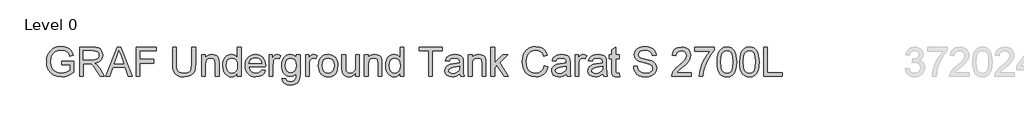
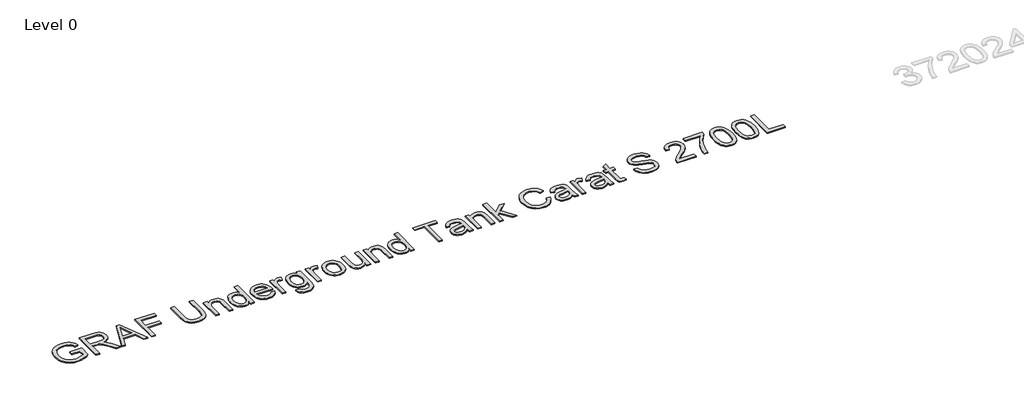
# One storey, part 18 of 20: 1 proxy.
"""IFC4 building model written with IfcOpenShell, lengths in millimetres."""

from ifc_helpers import new_model, si_unit, origin, origin_with_axes, place, context, project, spatial, polyline, outline, extrude, element, save

model = new_model("IFC4")

# Units and contexts
model_context = context("Model", 3, world=origin())
ifc_project = project(units=[si_unit("LENGTHUNIT", "METRE", prefix="MILLI")], contexts=[model_context])

# Site, building, storey
site = spatial("IfcSite", under=ifc_project)
building = spatial("IfcBuilding", under=site)
storey = spatial("IfcBuildingStorey", under=building, Name="Level 0", Elevation=0.0)

# Proxy
placement = place(None, origin())
element("IfcBuildingElementProxy", 1, Name="300mm Arial", ObjectType="300mm Arial", at=placement, inside=storey, context=model_context, shape_type="SweptSolid", body=[
    extrude(outline(polyline([(-14980.9940387, 9416.7454403), (-14980.9940387, 9454.4165566), (-14858.5629107, 9454.4165566), (-14858.5629107, 9341.7710897), (-14888.3153671, 9321.0777274), (-14919.0059225, 9306.2336889), (-14950.5610007, 9297.2941564), (-14982.9070251, 9294.3143123), (-15025.1674693, 9299.050793), (-15063.3628175, 9313.260235), (-15095.0926395, 9336.4459978), (-15117.9565055, 9368.1114405), (-15131.7796715, 9406.0952565), (-15136.3873935, 9448.2361391), (-15131.7980656, 9490.6805243), (-15118.0300819, 9530.1634594), (-15095.6536596, 9563.282036), (-15065.2390156, 9586.6333457), (-15028.1932987, 9600.4841028), (-14985.9236575, 9605.1010218), (-14954.8928112, 9602.4246803), (-14926.9889618, 9594.3956557), (-14903.4904994, 9581.5933623), (-14885.6758138, 9564.5972141), (-14872.4964413, 9542.5886738), (-14862.9039183, 9514.7492038), (-14897.6319786, 9504.9635427), (-14905.3850917, 9524.8199734), (-14914.8120678, 9539.8019677), (-14927.2832674, 9551.0959449), (-14944.169051, 9559.8883246), (-14964.3013932, 9565.5445103), (-14986.5122687, 9567.4299055), (-15012.5123287, 9565.3973575), (-15034.7415982, 9559.2997134), (-15053.1173039, 9549.9003284), (-15067.5566722, 9537.9625577), (-15086.9440533, 9508.9366683), (-15095.7732212, 9480.49939), (-15098.7162772, 9449.7812434), (-15095.175413, 9413.7563991), (-15084.5528204, 9384.1143073), (-15067.1703961, 9361.0665003), (-15043.3500369, 9344.8245102), (-15015.4737787, 9335.195199), (-14985.9236575, 9331.9854286), (-14959.831627, 9334.4042527), (-14934.3833899, 9341.6607251), (-14912.2828791, 9351.6579183), (-14896.234027, 9362.298905), (-14896.234027, 9416.7454403), (-14980.9940387, 9416.7454403)])), origin_with_axes(), (0.0, 0.0, 1.0), 10.0),
    extrude(outline(polyline([(-14797.3473467, 9299.0232018), (-14797.3473467, 9600.3921323), (-14667.4850024, 9600.3921323), (-14632.5821982, 9598.3595842), (-14607.1891434, 9592.2619402), (-14588.6294968, 9581.0047511), (-14574.2269167, 9563.4935682), (-14564.9838815, 9541.7793334), (-14561.9028698, 9517.912989), (-14567.0072325, 9488.2249119), (-14582.3203206, 9463.6136065), (-14593.9200997, 9453.5842236), (-14608.3019865, 9445.5689946), (-14645.4120827, 9435.5809984), (-14624.0013506, 9419.467767), (-14593.467145, 9380.6930048), (-14543.2144645, 9299.0232018), (-14586.9924219, 9299.0232018), (-14626.2086426, 9361.4895646), (-14654.5355562, 9402.8395009), (-14674.4379722, 9422.3740348), (-14692.3538253, 9429.5477337), (-14714.2060158, 9430.8721089), (-14759.6762304, 9430.8721089), (-14759.6762304, 9299.0232018), (-14797.3473467, 9299.0232018)]), holes=[polyline([(-14759.6762304, 9468.5432252), (-14675.3576771, 9468.5432252), (-14651.1418448, 9469.8767974), (-14632.3522719, 9473.8775141), (-14618.2072092, 9480.8120897), (-14607.9249074, 9490.9472387), (-14601.6617165, 9503.2069062), (-14599.5739861, 9516.5150374), (-14603.5563087, 9534.890743), (-14615.5032765, 9549.6979933), (-14636.058683, 9559.4652603), (-14665.8663217, 9562.721016), (-14759.6762304, 9562.721016), (-14759.6762304, 9468.5432252)])]), origin_with_axes(), (0.0, 0.0, 1.0), 10.0),
    extrude(outline(polyline([(-14531.0743586, 9299.0232018), (-14410.7769462, 9600.3921323), (-14378.6976362, 9600.3921323), (-14258.4002238, 9299.0232018), (-14298.2050557, 9299.0232018), (-14332.7123868, 9393.2009926), (-14456.835772, 9393.2009926), (-14491.2695268, 9299.0232018), (-14531.0743586, 9299.0232018)]), holes=[polyline([(-14443.003409, 9430.8721089), (-14346.4711735, 9430.8721089), (-14373.6208647, 9504.9635427), (-14394.7372912, 9562.721016), (-14413.499273, 9511.4382658), (-14443.003409, 9430.8721089)])]), origin_with_axes(), (0.0, 0.0, 1.0), 10.0),
    extrude(outline(polyline([(-14218.1539335, 9299.0232018), (-14218.1539335, 9600.3921323), (-14015.6716834, 9600.3921323), (-14015.6716834, 9562.721016), (-14180.4828172, 9562.721016), (-14180.4828172, 9473.2521147), (-14039.2161311, 9473.2521147), (-14039.2161311, 9435.5809984), (-14180.4828172, 9435.5809984), (-14180.4828172, 9299.0232018), (-14218.1539335, 9299.0232018)])), origin_with_axes(), (0.0, 0.0, 1.0), 10.0),
    extrude(outline(polyline([(-13648.3782994, 9600.3921323), (-13610.7071831, 9600.3921323), (-13610.7071831, 9426.5311014), (-13613.263963, 9385.8157615), (-13620.9343026, 9354.4630185), (-13635.2633063, 9330.2747773), (-13657.7960785, 9311.0529431), (-13688.5878015, 9298.49897), (-13727.6936576, 9294.3143123), (-13765.944188, 9297.956344), (-13796.5243789, 9308.8824393), (-13819.4434272, 9326.715519), (-13834.71053, 9351.0785041), (-13843.2913775, 9383.7556224), (-13846.15166, 9426.5311014), (-13846.15166, 9600.3921323), (-13808.4805437, 9600.3921323), (-13808.4805437, 9427.8554765), (-13806.6227396, 9394.0011359), (-13801.0493274, 9370.4290971), (-13790.9509666, 9354.1043335), (-13775.5183169, 9341.9918189), (-13755.3951718, 9334.4870262), (-13731.2253247, 9331.9854286), (-13692.9104149, 9336.9334414), (-13678.5676156, 9343.1184575), (-13667.4345868, 9351.7774799), (-13659.097461, 9363.954374), (-13653.1423712, 9380.6930048), (-13648.3782994, 9427.8554765), (-13648.3782994, 9600.3921323)])), origin_with_axes(), (0.0, 0.0, 1.0), 10.0),
    extrude(outline(polyline([(-13549.4916191, 9299.0232018), (-13549.4916191, 9520.3410101), (-13511.8205028, 9520.3410101), (-13511.8205028, 9489.4389225), (-13498.7331008, 9505.018725), (-13483.0153426, 9516.1471554), (-13464.6672281, 9522.8242136), (-13443.6887573, 9525.0498997), (-13425.1199136, 9523.2564749), (-13408.1145684, 9517.8762008), (-13393.9327174, 9509.5804618), (-13383.8343567, 9499.0406426), (-13372.5403794, 9471.3391284), (-13370.5538166, 9434.9188108), (-13370.5538166, 9299.0232018), (-13408.224933, 9299.0232018), (-13408.224933, 9429.8420393), (-13412.5659405, 9463.1721481), (-13418.5716141, 9473.0957649), (-13427.9066197, 9480.7936956), (-13439.8719816, 9485.7325114), (-13453.768724, 9487.3787834), (-13475.8324466, 9483.6815693), (-13494.6404136, 9472.5899271), (-13502.1567026, 9463.5354315), (-13507.5254805, 9451.1608009), (-13511.8205028, 9416.4511347), (-13511.8205028, 9299.0232018), (-13549.4916191, 9299.0232018)])), origin_with_axes(), (0.0, 0.0, 1.0), 10.0),
    extrude(outline(polyline([(-13182.1982351, 9299.0232018), (-13182.1982351, 9334.5606026), (-13193.4692197, 9316.9528506), (-13207.1222403, 9304.3758849), (-13223.1572968, 9296.8297054), (-13241.5743891, 9294.3143123), (-13265.9281772, 9297.956344), (-13288.2218261, 9308.8824393), (-13307.0941725, 9326.3292429), (-13321.1840529, 9349.5333998), (-13329.9580385, 9377.5568107), (-13332.8827003, 9409.4613768), (-13330.1879647, 9440.9704697), (-13322.1037579, 9469.426142), (-13308.6392769, 9493.209713), (-13289.8037187, 9510.7025018), (-13267.0226262, 9521.4630502), (-13241.7215419, 9525.0498997), (-13223.290654, 9522.4839227), (-13206.9934816, 9514.785992), (-13193.1795127, 9502.986177), (-13182.1982351, 9488.1145473), (-13182.1982351, 9600.3921323), (-13144.5271188, 9600.3921323), (-13144.5271188, 9299.0232018), (-13182.1982351, 9299.0232018)]), holes=[polyline([(-13295.211584, 9409.6085296), (-13290.962547, 9375.5334598), (-13278.2154359, 9351.2992333), (-13259.6925774, 9336.8138798), (-13238.1162984, 9331.9854286), (-13216.5492164, 9336.5931506), (-13198.4954075, 9350.4163165), (-13186.2725282, 9373.7124439), (-13182.1982351, 9406.73905), (-13186.3461046, 9442.8466678), (-13198.7897131, 9467.8810376), (-13217.3033745, 9482.5043469), (-13239.6614028, 9487.3787834), (-13261.458411, 9482.697485), (-13279.3190818, 9468.6535898), (-13291.2384585, 9444.529728), (-13295.211584, 9409.6085296)])]), origin_with_axes(), (0.0, 0.0, 1.0), 10.0),
    extrude(outline(polyline([(-12933.068548, 9364.9476554), (-12896.1331957, 9360.2387658), (-12909.4413268, 9332.4084929), (-12930.677315, 9311.6047661), (-12959.3629136, 9298.6369257), (-12995.019876, 9294.3143123), (-13018.3941782, 9296.1790141), (-13039.2208977, 9301.7731197), (-13057.5000343, 9311.0966291), (-13073.2315881, 9324.1495421), (-13085.8821303, 9340.5685754), (-13094.9182318, 9359.9904455), (-13100.3398927, 9382.4151523), (-13102.147113, 9407.842696), (-13100.3214986, 9434.1324631), (-13094.8446554, 9457.3044302), (-13085.7165834, 9477.3585975), (-13072.9372826, 9494.2949649), (-13057.2471155, 9507.7502488), (-13039.3864446, 9517.361166), (-13019.35527, 9523.1277162), (-12997.1535915, 9525.0498997), (-12975.6669838, 9523.1323148), (-12956.2359166, 9517.3795601), (-12938.8603901, 9507.7916356), (-12923.5404043, 9494.3685413), (-12911.0347157, 9477.4689621), (-12902.102081, 9457.451583), (-12896.7425002, 9434.3164041), (-12894.9559733, 9408.0634252), (-12895.1767025, 9397.9098821), (-13064.4759967, 9397.9098821), (-13057.9552883, 9369.7117272), (-13042.8077471, 9348.9815768), (-13020.9463596, 9336.2344656), (-12994.284112, 9331.9854286), (-12974.2345432, 9333.9535973), (-12957.3487597, 9339.8581033), (-12943.6267612, 9350.0668287), (-12933.068548, 9364.9476554)]), holes=[polyline([(-13064.4759967, 9435.5809984), (-12932.6270896, 9435.5809984), (-12937.7222552, 9455.4834144), (-12947.7102514, 9469.7204476), (-12969.6728065, 9482.9641994), (-12997.3007443, 9487.3787834), (-13022.6937991, 9483.8563132), (-13043.6906639, 9473.2889029), (-13058.2863821, 9456.8169866), (-13064.4759967, 9435.5809984)])]), origin_with_axes(), (0.0, 0.0, 1.0), 10.0),
    extrude(outline(polyline([(-12857.284857, 9299.0232018), (-12857.284857, 9520.3410101), (-12824.3226302, 9520.3410101), (-12824.3226302, 9487.5995125), (-12812.1457362, 9506.5822235), (-12800.9253353, 9517.7658362), (-12789.6681463, 9523.2288838), (-12777.3808876, 9525.0498997), (-12758.6189059, 9522.1436319), (-12739.5626185, 9513.4248286), (-12752.1441828, 9479.6532615), (-12765.3879346, 9485.4474029), (-12778.6316864, 9487.3787834), (-12789.8796784, 9485.5209793), (-12799.9320539, 9479.947567), (-12808.053049, 9471.081611), (-12813.5068996, 9459.3461753), (-12818.0870304, 9438.3033252), (-12819.6137407, 9415.3474887), (-12819.6137407, 9299.0232018), (-12857.284857, 9299.0232018)])), origin_with_axes(), (0.0, 0.0, 1.0), 10.0),
    extrude(outline(polyline([(-12725.4359499, 9280.1876437), (-12687.7648336, 9275.4787541), (-12683.6077671, 9263.7065303), (-12675.5511514, 9255.6131264), (-12659.7138315, 9249.3223443), (-12638.983681, 9247.2254169), (-12616.8739731, 9249.5982558), (-12600.4296479, 9256.7167724), (-12589.0253061, 9268.1211142), (-12582.0355482, 9283.3514288), (-12579.4603742, 9327.2765391), (-12591.9959532, 9314.915704), (-12605.9846661, 9306.0865361), (-12621.4265128, 9300.7890354), (-12638.3214935, 9299.0232018), (-12658.9757682, 9301.0787425), (-12677.1606351, 9307.2453644), (-12692.8760941, 9317.5230677), (-12706.1221452, 9331.9118522), (-12716.6320739, 9349.1747148), (-12724.1391659, 9368.0746523), (-12728.6434211, 9388.6116647), (-12730.1448394, 9410.785752), (-12727.4501038, 9441.2003959), (-12719.365897, 9469.1686246), (-12706.1773275, 9492.8694221), (-12688.1695038, 9510.4817726), (-12665.9586283, 9521.4078679), (-12640.1609034, 9525.0498997), (-12622.5439544, 9522.9897605), (-12606.5548832, 9516.809343), (-12592.1936898, 9506.5086471), (-12579.4603742, 9492.0876729), (-12579.4603742, 9520.3410101), (-12541.7892579, 9520.3410101), (-12541.7892579, 9329.2631018), (-12544.3644319, 9285.1448536), (-12552.0899538, 9256.091373), (-12565.398085, 9236.8235535), (-12584.7210868, 9222.0622884), (-12609.6358949, 9212.6812976), (-12639.719445, 9209.5543006), (-12674.7694021, 9213.9596875), (-12702.3697488, 9227.1758482), (-12712.7647144, 9237.0971657), (-12720.0740698, 9249.2395708), (-12724.297815, 9263.6030635), (-12725.4359499, 9280.1876437)]), holes=[polyline([(-12692.4737231, 9413.3609259), (-12688.4546123, 9378.8076095), (-12676.39728, 9355.0516297), (-12658.2698946, 9341.283646), (-12636.0406251, 9336.6943181), (-12613.9769024, 9341.2560549), (-12595.7575466, 9354.9412651), (-12583.5346673, 9378.3937423), (-12579.4603742, 9412.2572799), (-12583.654229, 9444.9160041), (-12596.2357932, 9468.4328606), (-12614.7218635, 9482.6423027), (-12636.6292363, 9487.3787834), (-12658.1411359, 9482.7158791), (-12676.1765508, 9468.7271662), (-12688.39943, 9445.5597976), (-12692.4737231, 9413.3609259)])]), origin_with_axes(), (0.0, 0.0, 1.0), 10.0),
    extrude(outline(polyline([(-12485.2825835, 9299.0232018), (-12485.2825835, 9520.3410101), (-12452.3203567, 9520.3410101), (-12452.3203567, 9487.5995125), (-12440.1434626, 9506.5822235), (-12428.9230618, 9517.7658362), (-12417.6658727, 9523.2288838), (-12405.3786141, 9525.0498997), (-12386.6166324, 9522.1436319), (-12367.560345, 9513.4248286), (-12380.1419092, 9479.6532615), (-12393.3856611, 9485.4474029), (-12406.6294129, 9487.3787834), (-12417.8774049, 9485.5209793), (-12427.9297804, 9479.947567), (-12436.0507755, 9471.081611), (-12441.504626, 9459.3461753), (-12446.0847569, 9438.3033252), (-12447.6114672, 9415.3474887), (-12447.6114672, 9299.0232018), (-12485.2825835, 9299.0232018)])), origin_with_axes(), (0.0, 0.0, 1.0), 10.0),
    extrude(outline(polyline([(-12353.4336764, 9409.682106), (-12351.3965298, 9438.3447119), (-12345.2850902, 9463.0433894), (-12335.0993575, 9483.7781383), (-12320.8393316, 9500.5489588), (-12306.4827368, 9511.2681204), (-12290.6362198, 9518.9246644), (-12273.2997808, 9523.5185909), (-12254.4734197, 9525.0498997), (-12233.6903862, 9523.1851978), (-12214.8985141, 9517.5910922), (-12198.0978032, 9508.2675829), (-12183.2882536, 9495.2146698), (-12171.2010308, 9478.8738115), (-12162.5673002, 9459.6864662), (-12157.3870619, 9437.6526339), (-12155.6603158, 9412.7723147), (-12158.7137363, 9374.7149223), (-12167.873998, 9345.7442152), (-12182.8743864, 9324.0483745), (-12203.448187, 9307.8155815), (-12227.8847485, 9297.6896296), (-12254.4734197, 9294.3143123), (-12275.5599558, 9296.1721164), (-12294.5265719, 9301.7455286), (-12311.373268, 9311.034549), (-12326.1000441, 9324.0391775), (-12338.0585082, 9340.538685), (-12346.6002683, 9360.3123422), (-12351.7253244, 9383.3601492), (-12353.4336764, 9409.682106)]), holes=[polyline([(-12315.7625601, 9409.7556824), (-12311.4031584, 9375.6622185), (-12298.3249535, 9351.3728097), (-12278.6432668, 9336.8322739), (-12254.4734197, 9331.9854286), (-12230.4139372, 9336.859865), (-12210.7690387, 9351.4831743), (-12197.6908337, 9376.0944798), (-12193.3314321, 9410.9329048), (-12197.7184249, 9444.0330873), (-12210.8794033, 9467.9914022), (-12230.5518929, 9482.5319381), (-12254.4734197, 9487.3787834), (-12278.6432668, 9482.5503322), (-12298.3249535, 9468.0649786), (-12311.4031584, 9443.8307522), (-12315.7625601, 9409.7556824)])]), origin_with_axes(), (0.0, 0.0, 1.0), 10.0),
    extrude(outline(polyline([(-11972.0136238, 9299.0232018), (-11972.0136238, 9337.0622001), (-11985.6436517, 9318.3599992), (-12001.5177598, 9305.0012842), (-12019.6359481, 9296.9860553), (-12039.9982165, 9294.3143123), (-12058.346331, 9296.1905105), (-12075.4252526, 9301.819105), (-12089.7542563, 9310.2803909), (-12099.8526171, 9320.6546631), (-12111.073018, 9348.3929656), (-12113.2803099, 9383.4153315), (-12113.2803099, 9520.3410101), (-12075.6091936, 9520.3410101), (-12075.6091936, 9401.1472437), (-12073.3283253, 9362.7403634), (-12067.8376865, 9349.9288729), (-12058.4291045, 9340.1891971), (-12045.7279786, 9334.0363707), (-12030.3597082, 9331.9854286), (-12014.1085211, 9334.082356), (-11998.9057976, 9340.3731381), (-11986.3702186, 9350.2783608), (-11978.1204649, 9363.21861), (-11973.5403341, 9380.9413251), (-11972.0136238, 9405.1939456), (-11972.0136238, 9520.3410101), (-11934.3425075, 9520.3410101), (-11934.3425075, 9299.0232018), (-11972.0136238, 9299.0232018)])), origin_with_axes(), (0.0, 0.0, 1.0), 10.0),
    extrude(outline(polyline([(-11882.5447226, 9299.0232018), (-11882.5447226, 9520.3410101), (-11844.8736063, 9520.3410101), (-11844.8736063, 9489.4389225), (-11831.7862043, 9505.018725), (-11816.068446, 9516.1471554), (-11797.7203315, 9522.8242136), (-11776.7418607, 9525.0498997), (-11758.173017, 9523.2564749), (-11741.1676718, 9517.8762008), (-11726.9858209, 9509.5804618), (-11716.8874601, 9499.0406426), (-11705.5934829, 9471.3391284), (-11703.6069201, 9434.9188108), (-11703.6069201, 9299.0232018), (-11741.2780364, 9299.0232018), (-11741.2780364, 9429.8420393), (-11745.619044, 9463.1721481), (-11751.6247175, 9473.0957649), (-11760.9597232, 9480.7936956), (-11772.925085, 9485.7325114), (-11786.8218274, 9487.3787834), (-11808.8855501, 9483.6815693), (-11827.6935171, 9472.5899271), (-11835.2098061, 9463.5354315), (-11840.578584, 9451.1608009), (-11844.8736063, 9416.4511347), (-11844.8736063, 9299.0232018), (-11882.5447226, 9299.0232018)])), origin_with_axes(), (0.0, 0.0, 1.0), 10.0),
    extrude(outline(polyline([(-11515.2513386, 9299.0232018), (-11515.2513386, 9334.5606026), (-11526.5223232, 9316.9528506), (-11540.1753437, 9304.3758849), (-11556.2104002, 9296.8297054), (-11574.6274926, 9294.3143123), (-11598.9812807, 9297.956344), (-11621.2749296, 9308.8824393), (-11640.1472759, 9326.3292429), (-11654.2371564, 9349.5333998), (-11663.0111419, 9377.5568107), (-11665.9358038, 9409.4613768), (-11663.2410682, 9440.9704697), (-11655.1568613, 9469.426142), (-11641.6923803, 9493.209713), (-11622.8568222, 9510.7025018), (-11600.0757296, 9521.4630502), (-11574.7746454, 9525.0498997), (-11556.3437574, 9522.4839227), (-11540.046585, 9514.785992), (-11526.2326161, 9502.986177), (-11515.2513386, 9488.1145473), (-11515.2513386, 9600.3921323), (-11477.5802223, 9600.3921323), (-11477.5802223, 9299.0232018), (-11515.2513386, 9299.0232018)]), holes=[polyline([(-11628.2646875, 9409.6085296), (-11624.0156504, 9375.5334598), (-11611.2685393, 9351.2992333), (-11592.7456809, 9336.8138798), (-11571.1694018, 9331.9854286), (-11549.6023199, 9336.5931506), (-11531.548511, 9350.4163165), (-11519.3256317, 9373.7124439), (-11515.2513386, 9406.73905), (-11519.3992081, 9442.8466678), (-11531.8428166, 9467.8810376), (-11550.356478, 9482.5043469), (-11572.7145062, 9487.3787834), (-11594.5115144, 9482.697485), (-11612.3721853, 9468.6535898), (-11624.2915619, 9444.529728), (-11628.2646875, 9409.6085296)])]), origin_with_axes(), (0.0, 0.0, 1.0), 10.0),
    extrude(outline(polyline([(-11223.3001872, 9299.0232018), (-11223.3001872, 9562.721016), (-11322.1868675, 9562.721016), (-11322.1868675, 9600.3921323), (-11086.7423906, 9600.3921323), (-11086.7423906, 9562.721016), (-11185.6290709, 9562.721016), (-11185.6290709, 9299.0232018), (-11223.3001872, 9299.0232018)])), origin_with_axes(), (0.0, 0.0, 1.0), 10.0),
    extrude(outline(polyline([(-10907.8045881, 9327.2765391), (-10925.8032148, 9311.8438894), (-10944.3352703, 9301.7455286), (-10963.823819, 9296.1721164), (-10984.6919251, 9294.3143123), (-11016.1734269, 9298.7840785), (-11039.3959778, 9312.1933772), (-11053.7157845, 9332.5556457), (-11058.4890534, 9357.8843211), (-11056.6864316, 9373.5009117), (-11051.2785663, 9387.6827627), (-11042.936842, 9399.8228685), (-11032.3326435, 9409.314224), (-11005.9555045, 9421.675059), (-10973.3611597, 9427.3404417), (-10934.8439148, 9433.3001301), (-10908.0253173, 9440.289888), (-10907.8045881, 9448.6775975), (-10910.3981562, 9465.4898046), (-10918.1788604, 9476.4894763), (-10935.5796788, 9484.6564566), (-10959.8231023, 9487.3787834), (-10982.263904, 9485.5669645), (-10997.935677, 9480.131508), (-11008.6226489, 9470.0791325), (-11016.1090475, 9454.4165566), (-11053.7801638, 9459.1254461), (-11047.2410614, 9479.7268379), (-11037.4829914, 9495.9136456), (-11023.5954461, 9508.2928748), (-11004.6679175, 9517.4715306), (-10981.5189429, 9523.1553074), (-10954.9670599, 9525.0498997), (-10929.5004288, 9523.3760366), (-10909.3129043, 9518.3544473), (-10894.0917868, 9510.8036694), (-10883.5243765, 9501.5422402), (-10876.5162244, 9490.0919131), (-10871.9728818, 9475.9744415), (-10870.1334718, 9443.0122147), (-10870.1334718, 9396.1440485), (-10868.2204855, 9330.6978416), (-10860.7156928, 9299.0232018), (-10898.3868091, 9299.0232018), (-10907.8045881, 9327.2765391)]), holes=[polyline([(-10907.8045881, 9402.6187717), (-10968.5786937, 9391.067277), (-11000.9890975, 9384.9604359), (-11015.6675891, 9375.027622), (-11020.8179371, 9360.5330714), (-11018.0128368, 9349.3310647), (-11009.5975362, 9340.1524089), (-10995.7559761, 9334.0271737), (-10976.6720976, 9331.9854286), (-10956.4385879, 9334.2387058), (-10938.5595229, 9340.9985375), (-10924.0649723, 9350.9589425), (-10913.9850057, 9362.8139398), (-10909.5152394, 9375.027622), (-10908.0253173, 9391.9501938), (-10907.8045881, 9402.6187717)])]), origin_with_axes(), (0.0, 0.0, 1.0), 10.0),
    extrude(outline(polyline([(-10818.3356869, 9299.0232018), (-10818.3356869, 9520.3410101), (-10780.6645706, 9520.3410101), (-10780.6645706, 9489.4389225), (-10767.5771686, 9505.018725), (-10751.8594104, 9516.1471554), (-10733.5112959, 9522.8242136), (-10712.5328251, 9525.0498997), (-10693.9639814, 9523.2564749), (-10676.9586362, 9517.8762008), (-10662.7767853, 9509.5804618), (-10652.6784245, 9499.0406426), (-10641.3844472, 9471.3391284), (-10639.3978845, 9434.9188108), (-10639.3978845, 9299.0232018), (-10677.0690008, 9299.0232018), (-10677.0690008, 9429.8420393), (-10681.4100083, 9463.1721481), (-10687.4156819, 9473.0957649), (-10696.7506875, 9480.7936956), (-10708.7160494, 9485.7325114), (-10722.6127918, 9487.3787834), (-10744.6765144, 9483.6815693), (-10763.4844814, 9472.5899271), (-10771.0007704, 9463.5354315), (-10776.3695483, 9451.1608009), (-10780.6645706, 9416.4511347), (-10780.6645706, 9299.0232018), (-10818.3356869, 9299.0232018)])), origin_with_axes(), (0.0, 0.0, 1.0), 10.0),
    extrude(outline(polyline([(-10587.6000995, 9299.0232018), (-10587.6000995, 9600.3921323), (-10549.9289832, 9600.3921323), (-10549.9289832, 9438.450478), (-10465.4632771, 9520.3410101), (-10413.3711866, 9520.3410101), (-10498.8669623, 9437.4204084), (-10408.6622971, 9299.0232018), (-10452.6609837, 9299.0232018), (-10525.8695007, 9411.2272104), (-10549.9289832, 9387.9034919), (-10549.9289832, 9299.0232018), (-10587.6000995, 9299.0232018)])), origin_with_axes(), (0.0, 0.0, 1.0), 10.0),
    extrude(outline(polyline([(-10041.3689131, 9406.1504388), (-10003.6977968, 9396.4383541), (-10011.1520057, 9373.0111688), (-10021.0802211, 9352.5408351), (-10033.4824428, 9335.0273528), (-10048.358671, 9320.4707221), (-10065.3732133, 9309.0272928), (-10084.1903773, 9300.8534147), (-10104.8101632, 9295.9490879), (-10127.2325708, 9294.3143123), (-10170.9277547, 9299.2623251), (-10205.6282239, 9314.1063636), (-10232.2260922, 9338.331393), (-10251.6134733, 9371.4223785), (-10263.4500765, 9410.3258995), (-10267.3956109, 9451.9885354), (-10262.9350417, 9495.9320397), (-10249.5533342, 9533.8790675), (-10227.949464, 9564.6248053), (-10198.822407, 9586.9644394), (-10164.2782877, 9600.5668762), (-10126.4232304, 9605.1010218), (-10085.1192794, 9599.233304), (-10067.1505432, 9591.8986567), (-10050.9706332, 9581.6301505), (-10036.8462638, 9568.6990984), (-10025.0441496, 9553.3768133), (-10008.4066863, 9515.5585442), (-10046.0778026, 9506.5822235), (-10059.1376135, 9534.0538115), (-10076.9798902, 9552.8985667), (-10099.8253621, 9563.7970708), (-10127.8947584, 9567.4299055), (-10160.2499798, 9563.4015977), (-10186.829454, 9551.3166741), (-10206.9985844, 9532.4443278), (-10220.1227746, 9508.0537515), (-10227.3240646, 9480.4809959), (-10229.7244946, 9452.0621118), (-10226.8826062, 9417.2604751), (-10218.356941, 9387.1677279), (-10203.8256022, 9362.9335014), (-10182.966693, 9345.707427), (-10157.9599144, 9335.4159282), (-10130.9849671, 9331.9854286), (-10099.5402536, 9336.6575299), (-10073.3378585, 9350.6738339), (-10053.5550042, 9373.8871878), (-10041.3689131, 9406.1504388)])), origin_with_axes(), (0.0, 0.0, 1.0), 10.0),
    extrude(outline(polyline([(-9815.3422153, 9327.2765391), (-9833.3408419, 9311.8438894), (-9851.8728974, 9301.7455286), (-9871.3614461, 9296.1721164), (-9892.2295523, 9294.3143123), (-9923.711054, 9298.7840785), (-9946.9336049, 9312.1933772), (-9961.2534116, 9332.5556457), (-9966.0266805, 9357.8843211), (-9964.2240587, 9373.5009117), (-9958.8161934, 9387.6827627), (-9950.4744691, 9399.8228685), (-9939.8702706, 9409.314224), (-9913.4931316, 9421.675059), (-9880.8987868, 9427.3404417), (-9842.3815419, 9433.3001301), (-9815.5629445, 9440.289888), (-9815.3422153, 9448.6775975), (-9817.9357833, 9465.4898046), (-9825.7164875, 9476.4894763), (-9843.1173059, 9484.6564566), (-9867.3607294, 9487.3787834), (-9889.8015311, 9485.5669645), (-9905.4733041, 9480.131508), (-9916.160276, 9470.0791325), (-9923.6466746, 9454.4165566), (-9961.3177909, 9459.1254461), (-9954.7786885, 9479.7268379), (-9945.0206186, 9495.9136456), (-9931.1330732, 9508.2928748), (-9912.2055446, 9517.4715306), (-9889.05657, 9523.1553074), (-9862.504687, 9525.0498997), (-9837.0380559, 9523.3760366), (-9816.8505314, 9518.3544473), (-9801.6294139, 9510.8036694), (-9791.0620036, 9501.5422402), (-9784.0538516, 9490.0919131), (-9779.5105089, 9475.9744415), (-9777.671099, 9443.0122147), (-9777.671099, 9396.1440485), (-9775.7581126, 9330.6978416), (-9768.2533199, 9299.0232018), (-9805.9244362, 9299.0232018), (-9815.3422153, 9327.2765391)]), holes=[polyline([(-9815.3422153, 9402.6187717), (-9876.1163209, 9391.067277), (-9908.5267246, 9384.9604359), (-9923.2052162, 9375.027622), (-9928.3555642, 9360.5330714), (-9925.550464, 9349.3310647), (-9917.1351633, 9340.1524089), (-9903.2936033, 9334.0271737), (-9884.2097248, 9331.9854286), (-9863.976215, 9334.2387058), (-9846.0971501, 9340.9985375), (-9831.6025994, 9350.9589425), (-9821.5226328, 9362.8139398), (-9817.0528665, 9375.027622), (-9815.5629445, 9391.9501938), (-9815.3422153, 9402.6187717)])]), origin_with_axes(), (0.0, 0.0, 1.0), 10.0),
    extrude(outline(polyline([(-9725.873314, 9299.0232018), (-9725.873314, 9520.3410101), (-9692.9110873, 9520.3410101), (-9692.9110873, 9487.5995125), (-9680.7341932, 9506.5822235), (-9669.5137924, 9517.7658362), (-9658.2566033, 9523.2288838), (-9645.9693447, 9525.0498997), (-9627.2073629, 9522.1436319), (-9608.1510756, 9513.4248286), (-9620.7326398, 9479.6532615), (-9633.9763916, 9485.4474029), (-9647.2201435, 9487.3787834), (-9658.4681355, 9485.5209793), (-9668.520511, 9479.947567), (-9676.641506, 9471.081611), (-9682.0953566, 9459.3461753), (-9686.6754874, 9438.3033252), (-9688.2021977, 9415.3474887), (-9688.2021977, 9299.0232018), (-9725.873314, 9299.0232018)])), origin_with_axes(), (0.0, 0.0, 1.0), 10.0),
    extrude(outline(polyline([(-9443.3399417, 9327.2765391), (-9461.3385684, 9311.8438894), (-9479.8706239, 9301.7455286), (-9499.3591726, 9296.1721164), (-9520.2272787, 9294.3143123), (-9551.7087805, 9298.7840785), (-9574.9313314, 9312.1933772), (-9589.2511381, 9332.5556457), (-9594.024407, 9357.8843211), (-9592.2217852, 9373.5009117), (-9586.8139199, 9387.6827627), (-9578.4721956, 9399.8228685), (-9567.8679971, 9409.314224), (-9541.4908581, 9421.675059), (-9508.8965133, 9427.3404417), (-9470.3792684, 9433.3001301), (-9443.5606709, 9440.289888), (-9443.3399417, 9448.6775975), (-9445.9335098, 9465.4898046), (-9453.714214, 9476.4894763), (-9471.1150324, 9484.6564566), (-9495.3584559, 9487.3787834), (-9517.7992576, 9485.5669645), (-9533.4710306, 9480.131508), (-9544.1580025, 9470.0791325), (-9551.6444011, 9454.4165566), (-9589.3155174, 9459.1254461), (-9582.776415, 9479.7268379), (-9573.018345, 9495.9136456), (-9559.1307997, 9508.2928748), (-9540.2032711, 9517.4715306), (-9517.0542965, 9523.1553074), (-9490.5024135, 9525.0498997), (-9465.0357824, 9523.3760366), (-9444.8482579, 9518.3544473), (-9429.6271404, 9510.8036694), (-9419.0597301, 9501.5422402), (-9412.051578, 9490.0919131), (-9407.5082354, 9475.9744415), (-9405.6688254, 9443.0122147), (-9405.6688254, 9396.1440485), (-9403.7558391, 9330.6978416), (-9396.2510464, 9299.0232018), (-9433.9221627, 9299.0232018), (-9443.3399417, 9327.2765391)]), holes=[polyline([(-9443.3399417, 9402.6187717), (-9504.1140473, 9391.067277), (-9536.5244511, 9384.9604359), (-9551.2029427, 9375.027622), (-9556.3532907, 9360.5330714), (-9553.5481904, 9349.3310647), (-9545.1328898, 9340.1524089), (-9531.2913297, 9334.0271737), (-9512.2074512, 9331.9854286), (-9491.9739415, 9334.2387058), (-9474.0948765, 9340.9985375), (-9459.6003259, 9350.9589425), (-9449.5203593, 9362.8139398), (-9445.050593, 9375.027622), (-9443.5606709, 9391.9501938), (-9443.3399417, 9402.6187717)])]), origin_with_axes(), (0.0, 0.0, 1.0), 10.0),
    extrude(outline(polyline([(-9273.8199184, 9330.4403242), (-9269.1110288, 9297.9195558), (-9297.2907897, 9294.3143123), (-9315.3721897, 9295.8778108), (-9328.8550648, 9300.5683062), (-9338.3832085, 9307.7971874), (-9344.6004142, 9316.9758432), (-9348.0217168, 9332.7395867), (-9349.162151, 9359.723731), (-9349.162151, 9482.6698938), (-9377.4154882, 9482.6698938), (-9377.4154882, 9520.3410101), (-9349.162151, 9520.3410101), (-9349.162151, 9574.1253578), (-9311.4910347, 9596.2718539), (-9311.4910347, 9520.3410101), (-9273.8199184, 9520.3410101), (-9273.8199184, 9482.6698938), (-9311.4910347, 9482.6698938), (-9311.4910347, 9360.827377), (-9309.5044719, 9341.4032077), (-9303.066537, 9334.5238144), (-9290.2274553, 9331.9854286), (-9273.8199184, 9330.4403242)])), origin_with_axes(), (0.0, 0.0, 1.0), 10.0),
    extrude(outline(polyline([(-9127.8443427, 9402.6187717), (-9090.1732264, 9402.6187717), (-9085.8506129, 9381.7138773), (-9078.0331205, 9364.9108672), (-9065.8378324, 9351.5751448), (-9048.3818317, 9341.0721139), (-9027.044676, 9334.2570999), (-9003.2059227, 9331.9854286), (-8982.2182549, 9333.7052769), (-8963.8425492, 9338.8648219), (-8948.9525255, 9347.0318022), (-8938.4219034, 9357.7739565), (-8932.1587124, 9370.1072003), (-8930.0709821, 9383.0474495), (-8931.6344805, 9395.6566049), (-8936.324976, 9406.555109), (-8945.8531197, 9415.8533264), (-8961.9295629, 9423.6616218), (-9016.7807683, 9438.0458078), (-9052.7872186, 9447.5647544), (-9075.8258286, 9456.6238486), (-9094.5786133, 9469.2973833), (-9107.8683503, 9484.6564566), (-9115.7870103, 9502.3699747), (-9118.4265636, 9522.1068437), (-9115.1616109, 9544.1705664), (-9105.3667528, 9564.7443669), (-9089.2995066, 9582.1819735), (-9067.2173899, 9594.8371141), (-9040.7114921, 9602.5350449), (-9011.372903, 9605.1010218), (-8979.5878986, 9602.4154832), (-8951.7760198, 9594.3588675), (-8928.9305479, 9581.0967216), (-8912.0447643, 9562.7945924), (-8901.3577923, 9540.592914), (-8897.1087553, 9515.6321206), (-8934.7798716, 9515.6321206), (-8941.6960531, 9538.1097105), (-8956.1170273, 9554.3333065), (-8978.6497995, 9564.1557557), (-9009.901375, 9567.4299055), (-9041.8887145, 9564.1925439), (-9063.8328755, 9554.4804593), (-9076.5248043, 9540.1882438), (-9080.7554473, 9523.2104897), (-9077.757209, 9508.7343332), (-9068.7624942, 9497.090868), (-9047.4989149, 9486.6798076), (-9007.2526247, 9476.0480179), (-8965.7187474, 9465.9496571), (-8940.5924071, 9457.1388833), (-8919.1172957, 9443.4720672), (-8904.1353014, 9426.6046777), (-8895.3337247, 9406.7206559), (-8892.3998658, 9384.0039427), (-8895.7751831, 9360.7813918), (-8905.901135, 9338.9383983), (-8922.3638543, 9320.1396283), (-8944.7494737, 9306.0497479), (-8971.6692387, 9297.2481712), (-9001.7343947, 9294.3143123), (-9038.6421559, 9297.4780974), (-9069.0200116, 9306.9694529), (-9093.2174499, 9322.8251669), (-9111.5839585, 9345.0820276), (-9123.3745764, 9372.1949307), (-9127.8443427, 9402.6187717)])), origin_with_axes(), (0.0, 0.0, 1.0), 10.0),
    extrude(outline(polyline([(-8539.2331504, 9336.6943181), (-8539.2331504, 9299.0232018), (-8737.006511, 9299.0232018), (-8732.9598091, 9324.9956707), (-8723.6707887, 9345.2935598), (-8710.077549, 9364.9844436), (-8690.4142563, 9385.5950323), (-8662.9150772, 9408.6520364), (-8622.2641167, 9444.7596542), (-8597.8735404, 9471.4127048), (-8585.6782523, 9493.0441661), (-8581.6131562, 9514.0870162), (-8585.448326, 9532.9501655), (-8596.9538354, 9548.6311355), (-8614.6397624, 9559.1985459), (-8637.0161847, 9562.721016), (-8660.5146472, 9559.2813193), (-8678.7707912, 9548.9622293), (-8690.5522121, 9532.5730865), (-8694.6265052, 9510.923231), (-8732.2976215, 9515.6321206), (-8723.1649509, 9552.0708322), (-8714.6185923, 9566.6067695), (-8703.4188848, 9578.6870946), (-8689.8233459, 9588.1830486), (-8674.0894928, 9594.9658728), (-8636.2068443, 9600.3921323), (-8616.0170206, 9598.8838161), (-8598.0482844, 9594.3588675), (-8582.3006357, 9586.8172866), (-8568.7740746, 9576.2590734), (-8557.9100594, 9563.465977), (-8550.1500486, 9549.2197467), (-8545.4940421, 9533.5203826), (-8543.9420399, 9516.3678846), (-8545.615903, 9498.3508639), (-8550.6374922, 9480.6465428), (-8559.5494336, 9462.6387192), (-8572.894353, 9443.7111905), (-8594.1671293, 9421.114039), (-8626.8626416, 9392.0973466), (-8670.1991407, 9355.8609701), (-8687.1952889, 9336.6943181), (-8539.2331504, 9336.6943181)])), origin_with_axes(), (0.0, 0.0, 1.0), 10.0),
    extrude(outline(polyline([(-8501.5620341, 9558.0121264), (-8501.5620341, 9595.6832427), (-8303.7886735, 9595.6832427), (-8303.7886735, 9565.2226135), (-8331.9776314, 9529.547257), (-8359.8906777, 9484.17821), (-8384.5111803, 9433.2541448), (-8402.8225066, 9380.9137339), (-8411.7988273, 9341.7526956), (-8416.8020224, 9299.0232018), (-8454.4731387, 9299.0232018), (-8450.3988456, 9337.8531464), (-8439.5003415, 9384.0039427), (-8422.071932, 9432.923051), (-8398.4079226, 9480.0579316), (-8370.7799848, 9522.6678637), (-8341.4597898, 9558.0121264), (-8501.5620341, 9558.0121264)])), origin_with_axes(), (0.0, 0.0, 1.0), 10.0),
    extrude(outline(polyline([(-8270.8264467, 9447.2796459), (-8268.0581347, 9495.5181725), (-8259.7531987, 9533.9894321), (-8245.994412, 9563.282036), (-8226.8645483, 9583.9845953), (-8202.2256517, 9596.290248), (-8171.9397664, 9600.3921323), (-8148.7264125, 9597.9641111), (-8127.9410798, 9590.6800476), (-8110.5586555, 9578.8250503), (-8097.554027, 9562.6842278), (-8087.7315777, 9542.3955357), (-8079.8956912, 9518.0969299), (-8074.7637374, 9487.2408276), (-8073.0530861, 9447.2796459), (-8075.793807, 9399.3170308), (-8084.0159696, 9360.9377416), (-8097.6919827, 9331.6175466), (-8116.7942553, 9310.8322139), (-8141.4883343, 9298.4437877), (-8171.9397664, 9294.3143123), (-8192.6883109, 9296.107737), (-8211.0824107, 9301.4880112), (-8227.1220657, 9310.4551348), (-8240.8072759, 9323.0091079), (-8253.9406631, 9345.7028285), (-8263.321654, 9373.9791583), (-8268.9502485, 9407.8380975), (-8270.8264467, 9447.2796459)]), holes=[polyline([(-8233.1553304, 9447.3532223), (-8228.7407465, 9388.0966299), (-8223.2225165, 9367.8286312), (-8215.4969946, 9353.8008309), (-8195.7785197, 9337.4392792), (-8171.9397664, 9331.9854286), (-8148.1010131, 9337.4576733), (-8128.3825382, 9353.8744073), (-8120.6570163, 9367.9252003), (-8115.1387864, 9388.1886004), (-8110.7242024, 9447.3532223), (-8114.9916336, 9505.2762424), (-8120.3259225, 9525.4775625), (-8127.793927, 9539.8387559), (-8147.4756137, 9557.0004509), (-8172.3812248, 9562.721016), (-8195.9624607, 9557.6810326), (-8214.9083834, 9542.5610826), (-8222.8914227, 9526.9260978), (-8228.5935937, 9505.8464595), (-8233.1553304, 9447.3532223)])]), origin_with_axes(), (0.0, 0.0, 1.0), 10.0),
    extrude(outline(polyline([(-8040.0908593, 9447.2796459), (-8037.3225473, 9495.5181725), (-8029.0176113, 9533.9894321), (-8015.2588247, 9563.282036), (-7996.1289609, 9583.9845953), (-7971.4900643, 9596.290248), (-7941.204179, 9600.3921323), (-7917.9908251, 9597.9641111), (-7897.2054924, 9590.6800476), (-7879.8230681, 9578.8250503), (-7866.8184396, 9562.6842278), (-7856.9959903, 9542.3955357), (-7849.1601038, 9518.0969299), (-7844.02815, 9487.2408276), (-7842.3174987, 9447.2796459), (-7845.0582196, 9399.3170308), (-7853.2803822, 9360.9377416), (-7866.9563954, 9331.6175466), (-7886.058668, 9310.8322139), (-7910.7527469, 9298.4437877), (-7941.204179, 9294.3143123), (-7961.9527236, 9296.107737), (-7980.3468233, 9301.4880112), (-7996.3864783, 9310.4551348), (-8010.0716885, 9323.0091079), (-8023.2050758, 9345.7028285), (-8032.5860666, 9373.9791583), (-8038.2146612, 9407.8380975), (-8040.0908593, 9447.2796459)]), holes=[polyline([(-8002.419743, 9447.3532223), (-7998.0051591, 9388.0966299), (-7992.4869292, 9367.8286312), (-7984.7614073, 9353.8008309), (-7965.0429323, 9337.4392792), (-7941.204179, 9331.9854286), (-7917.3654257, 9337.4576733), (-7897.6469508, 9353.8744073), (-7889.9214289, 9367.9252003), (-7884.403199, 9388.1886004), (-7879.988615, 9447.3532223), (-7884.2560462, 9505.2762424), (-7889.5903351, 9525.4775625), (-7897.0583396, 9539.8387559), (-7916.7400264, 9557.0004509), (-7941.6456374, 9562.721016), (-7965.2268733, 9557.6810326), (-7984.1727961, 9542.5610826), (-7992.1558354, 9526.9260978), (-7997.8580063, 9505.8464595), (-8002.419743, 9447.3532223)])]), origin_with_axes(), (0.0, 0.0, 1.0), 10.0),
    extrude(outline(polyline([(-7795.2286033, 9299.0232018), (-7795.2286033, 9600.3921323), (-7757.557487, 9600.3921323), (-7757.557487, 9336.6943181), (-7606.8730218, 9336.6943181), (-7606.8730218, 9299.0232018), (-7795.2286033, 9299.0232018)])), origin_with_axes(), (0.0, 0.0, 1.0), 10.0),
])

save(model, "model.ifc")
